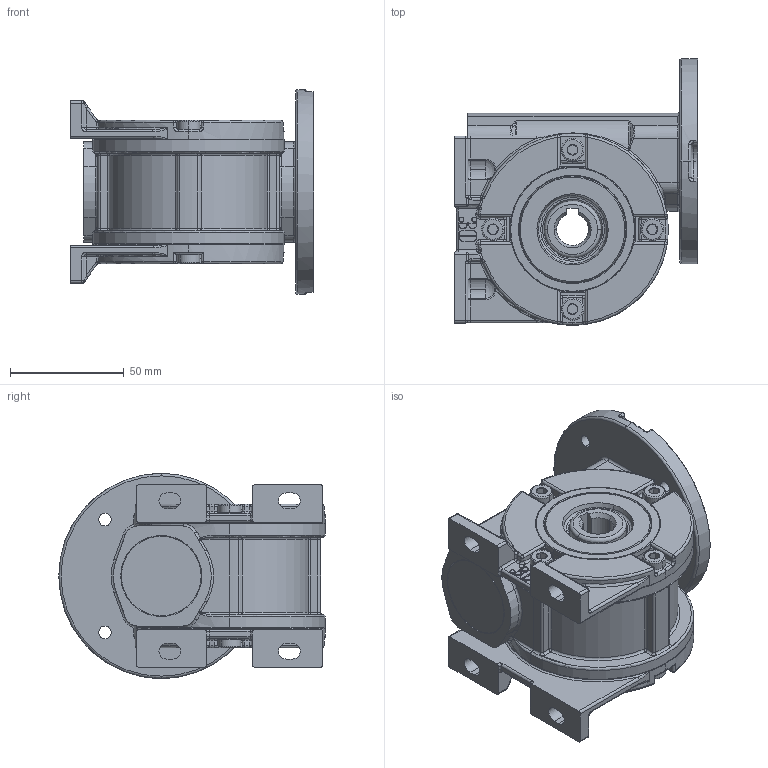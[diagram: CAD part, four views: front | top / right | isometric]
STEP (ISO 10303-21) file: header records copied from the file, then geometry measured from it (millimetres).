
FILE_DESCRIPTION (( 'STEP AP214' ), '1' );
FILE_NAME ('Sestava MRT30A-V.STEP', '2007-06-25T04:13:13', ( '' ), ( '' ), 'SwSTEP 2.0', 'SolidWorks 2004146', '' );
FILE_SCHEMA (( 'AUTOMOTIVE_DESIGN' ));
Length unit declared in the file: millimetre
Products named in the file (15): CSN 024630_SKF 6300_Ložisko SKF 6300 ÈSN 024630; DIN 3760-NB_AS 20x30x7_Tìsnìní AS 20x30x7 DIN 3760-NB; DIN 5405 - K20X26X17 - 18,SI,AC,18; DIN 3760-NB_A 25x47x7_Tìsnìní A 25x47x7 DIN 3760-NB; vicko nbr 35_Výchozí; CSN 022931_35_Kroužek 35 ÈSN 022931; CSN 024630_SKF 6005_Ložisko SKF 6005 ÈSN 024630; DIN 7984_M6x12_Šroub DIN 7984 - M6x12; skrin_30_63_Výchozí; Snekove ozubeni 002PILIB; Sestava MRT30A-V; naboj_Výchozí; Snekove ozubeni 002LAM5B; PATKA-ADA_Výchozí; CSN 022931_47_Kroužek 47 ÈSN 022931
Assembly tree (25 placements, depth 2):
  Sestava MRT30A-V
    skrin_30_63_Výchozí
    DIN 7984_M6x12_Šroub DIN 7984 - M6x12  x8
    CSN 022931_35_Kroužek 35 ÈSN 022931
    CSN 024630_SKF 6005_Ložisko SKF 6005 ÈSN 024630  x2
    PATKA-ADA_Výchozí  x2
    CSN 022931_47_Kroužek 47 ÈSN 022931  x2
    CSN 024630_SKF 6300_Ložisko SKF 6300 ÈSN 024630
    DIN 3760-NB_AS 20x30x7_Tìsnìní AS 20x30x7 DIN 3760-NB
    Snekove ozubeni 002PILIB
    vicko nbr 35_Výchozí
    DIN 3760-NB_A 25x47x7_Tìsnìní A 25x47x7 DIN 3760-NB  x2
    naboj_Výchozí
    Snekove ozubeni 002LAM5B
    DIN 5405 - K20X26X17 - 18,SI,AC,18
Bounding box: 107 x 117 x 90 mm (x, y, z)
Volume: 345033.6 mm3; surface area: 168656.7 mm2
Topology: 25 solids, 25 shells, 2251 faces, 5798 edges, 3452 vertices
Faces by surface type: cylinder 757, torus 455, plane 406, cone 310, bspline 191, sphere 132
Entity records: 98143 total; most frequent: CARTESIAN_POINT 60746, ORIENTED_EDGE 7850, DIRECTION 7426, EDGE_CURVE 3925, AXIS2_PLACEMENT_3D 3288, VERTEX_POINT 2417, CIRCLE 1833, EDGE_LOOP 1658
